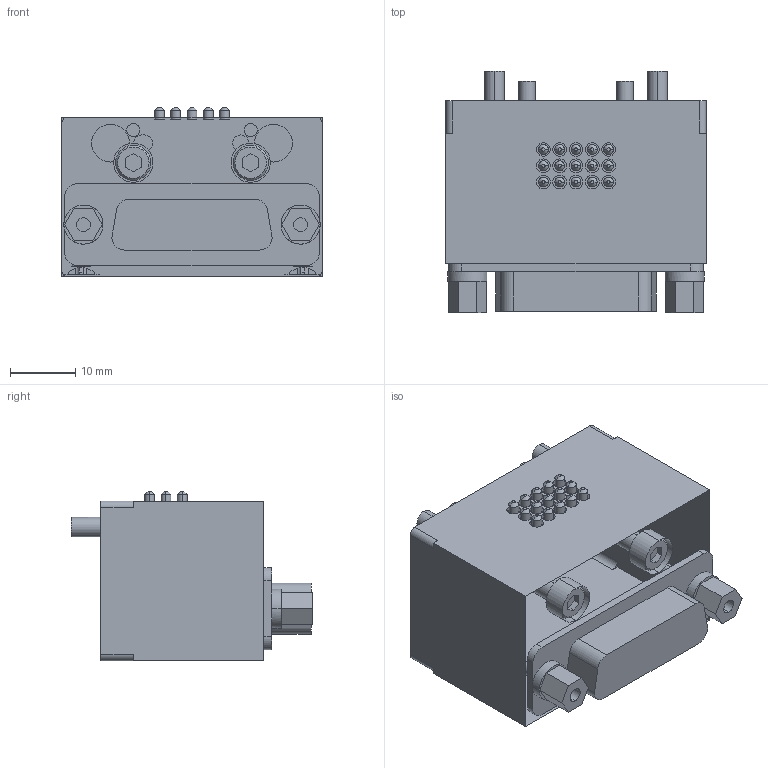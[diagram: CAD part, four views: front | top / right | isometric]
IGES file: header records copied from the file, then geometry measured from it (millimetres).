
Start section: 3D InterOp IGES (v. 2022 1.0.0), Spatial Corp. Copyright (c) 1999-2020.
Global section: file name: KHF-12HS-D315C_ver1.igs; native system: Spatial Corp.; preprocessor: 3D InterOp GENERIC/IGES 3.0; author: Noname; organization: Noname; date: 20260427.112330; units: millimetre
Bounding box: 40 x 37 x 26 mm (x, y, z)
Surface area: 7994 mm2 (no closed solid volume)
Topology: 0 solids, 0 shells, 402 faces, 1796 edges, 1796 vertices
Faces by surface type: revolution 211, extrusion 191
